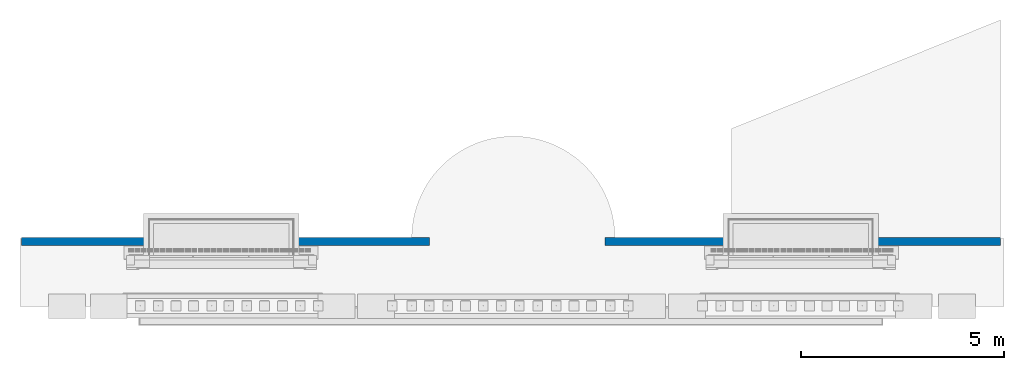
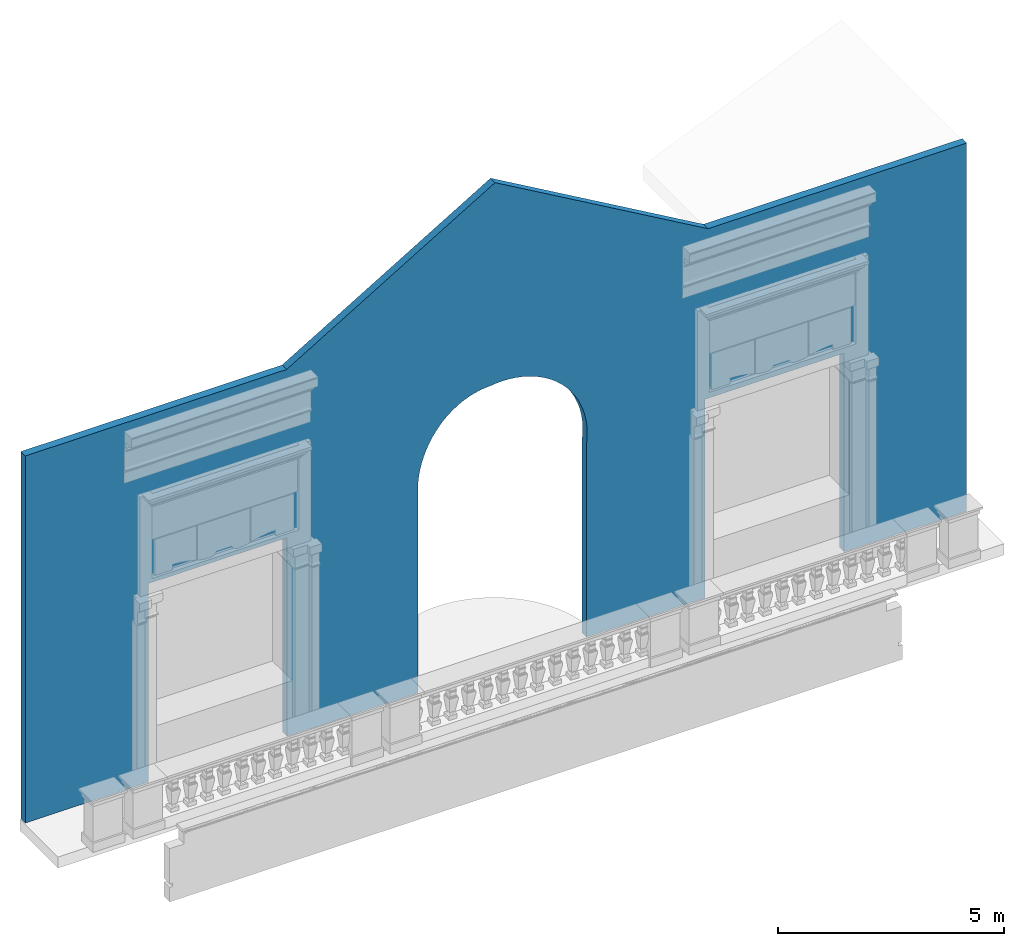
# One storey, part 2 of 14: 1 wall.
"""IFC2X3 building model written with IfcOpenShell, lengths in metres."""

from ifc_helpers import new_model, entity, si_unit, converted_unit, derived_unit, direction, frame, origin, place, context, subcontext, project, spatial, faceted_brep, material, material_list, layer, layer_set, type_object, element, save


model = new_model("IFC2X3")

# Units and contexts
model_context = context("Model", 3, precision=1e-05, world=origin(), true_north=direction((6.12303176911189e-17, 1.0)))
body_context = subcontext(model_context, "Body", "Model", "MODEL_VIEW")
ifc_project = project(units=[si_unit("LENGTHUNIT", "METRE"), si_unit("AREAUNIT", "SQUARE_METRE"), si_unit("VOLUMEUNIT", "CUBIC_METRE"), converted_unit("PLANEANGLEUNIT", "DEGREE", entity("IfcRatioMeasure", 0.0174532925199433), si_unit("PLANEANGLEUNIT", "RADIAN"), dimensions=[0, 0, 0, 0, 0, 0, 0]), si_unit("MASSUNIT", "GRAM", prefix="KILO"), derived_unit("MASSDENSITYUNIT", [(si_unit("MASSUNIT", "GRAM", prefix="KILO"), 1), (si_unit("LENGTHUNIT", "METRE"), -3)]), si_unit("TIMEUNIT", "SECOND"), si_unit("FREQUENCYUNIT", "HERTZ"), si_unit("THERMODYNAMICTEMPERATUREUNIT", "DEGREE_CELSIUS"), derived_unit("THERMALTRANSMITTANCEUNIT", [(si_unit("MASSUNIT", "GRAM", prefix="KILO"), 1), (si_unit("THERMODYNAMICTEMPERATUREUNIT", "KELVIN"), -1), (si_unit("TIMEUNIT", "SECOND"), -3)]), derived_unit("VOLUMETRICFLOWRATEUNIT", [(si_unit("LENGTHUNIT", "METRE"), 3), (si_unit("TIMEUNIT", "SECOND"), -1)]), si_unit("ELECTRICCURRENTUNIT", "AMPERE"), si_unit("ELECTRICVOLTAGEUNIT", "VOLT"), si_unit("POWERUNIT", "WATT"), si_unit("FORCEUNIT", "NEWTON", prefix="KILO"), si_unit("ILLUMINANCEUNIT", "LUX"), si_unit("LUMINOUSFLUXUNIT", "LUMEN"), si_unit("LUMINOUSINTENSITYUNIT", "CANDELA"), derived_unit("USERDEFINED", [(si_unit("MASSUNIT", "GRAM", prefix="KILO"), -1), (si_unit("LENGTHUNIT", "METRE"), -2), (si_unit("TIMEUNIT", "SECOND"), 3), (si_unit("LUMINOUSFLUXUNIT", "LUMEN"), 1)]), derived_unit("LINEARVELOCITYUNIT", [(si_unit("LENGTHUNIT", "METRE"), 1), (si_unit("TIMEUNIT", "SECOND"), -1)]), si_unit("PRESSUREUNIT", "PASCAL"), derived_unit("USERDEFINED", [(si_unit("LENGTHUNIT", "METRE"), -2), (si_unit("MASSUNIT", "GRAM", prefix="KILO"), 1), (si_unit("TIMEUNIT", "SECOND"), -2)])], contexts=[model_context])

# Site, building, storey
site_placement = place(None, origin())
site = spatial("IfcSite", under=ifc_project, at=site_placement, Name="Default", CompositionType="ELEMENT")
building_placement = place(site_placement, origin())
building = spatial("IfcBuilding", under=site, at=building_placement, CompositionType="ELEMENT")
storey_placement = place(building_placement, frame((0.0, 0.0, 13.366833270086)))
storey = spatial("IfcBuildingStorey", under=building, at=storey_placement, Name="Livello 2", CompositionType="ELEMENT", Elevation=13.366833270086)

# Wall
ifc_material = material(Name="Travertino")
ifc_material_list = material_list([ifc_material, ifc_material])
ifc_layer_1 = layer(ifc_material, 0.1)
ifc_layer_2 = layer(ifc_material, 0.1)
ifc_layer_set = layer_set([ifc_layer_1, ifc_layer_2], Name="Muro di base:Generico - 200 mm")
wall_type = type_object("IfcWallType", Name="Muro di base:Generico - 200 mm", PredefinedType="NOTDEFINED", material=ifc_layer_set)
wall_placement = place(storey_placement, frame((-12.0889166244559, 1.36337273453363, 0.0)))
element("IfcWall", 1, at=wall_placement, inside=storey, type_object=wall_type, material=ifc_material_list, Name="Muro di base:Generico - 200 mm", ObjectType="Muro di base:Generico - 200 mm:1740", context=body_context, shape_type="Brep", body=[
    faceted_brep([(3.1429955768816, -0.1, 5.37278470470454), (6.69556506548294, -0.1, 5.37278470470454), (6.69556506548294, -0.1, 0.0), (10.0354851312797, -0.1, 0.0), (10.0354851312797, -0.1, 5.37374708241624), (10.0354565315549, -0.1, 5.54226231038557), (10.0460613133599, -0.0999999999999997, 5.70989314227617), (10.067241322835, -0.0999999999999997, 5.87572033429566), (10.0988804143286, -0.1, 6.03883453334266), (10.140805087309, -0.0999999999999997, 6.19834126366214), (10.1927854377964, -0.1, 6.35336583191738), (10.2545364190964, -0.1, 6.50305812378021), (10.3257194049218, -0.1, 6.64659726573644), (10.4059440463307, -0.0999999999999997, 6.78319612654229), (10.4947704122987, -0.1, 6.91210563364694), (10.5917114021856, -0.1, 7.03261888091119), (10.6962354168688, -0.1, 7.14407500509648), (10.8077692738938, -0.0999999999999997, 7.24586280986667), (10.9257013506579, -0.1, 7.33742411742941), (11.0493849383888, -0.0999999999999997, 7.4182568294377), (11.1781417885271, -0.1, 7.48791768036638), (11.3112658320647, -0.0999999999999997, 7.5460246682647), (11.4480270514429, -0.1, 7.59225914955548), (11.5876754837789, -0.1, 7.62636758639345), (11.7294453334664, -0.0999999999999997, 7.64816293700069), (11.8725591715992, -0.1, 7.657525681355), (12.0377347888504, -0.1, 7.67612300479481), (12.2038487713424, -0.1, 7.68203822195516), (12.3699288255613, -0.1, 7.6752367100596), (12.5350028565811, -0.1, 7.65575827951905), (12.6981046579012, -0.1, 7.62371694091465), (12.8582795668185, -0.1, 7.57930023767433), (13.0145900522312, -0.1, 7.52276814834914), (13.1661212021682, -0.0999999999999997, 7.45445156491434), (13.3119860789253, -0.0999999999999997, 7.37475035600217), (13.4513309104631, -0.1, 7.28413102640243), (13.5833400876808, -0.0999999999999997, 7.18312398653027), (13.7072409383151, -0.1, 7.07232044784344), (13.8223082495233, -0.0999999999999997, 6.9523689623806), (13.9278685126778, -0.1, 6.8239716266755), (14.0233038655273, -0.1, 6.68787997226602), (14.10805570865, -0.1, 6.54489056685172), (14.1816279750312, -0.1, 6.39584035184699), (14.2435900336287, -0.0999999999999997, 6.24160174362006), (14.2935792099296, -0.1, 6.08307752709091), (14.3313029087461, -0.0999999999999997, 5.92119557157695), (14.3565403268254, -0.1, 5.75690339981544), (14.3691437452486, -0.1, 5.59116264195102), (14.3690393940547, -0.1, 5.42494340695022), (14.3562278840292, -0.1, 5.259218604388), (14.3562278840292, -0.1, 0.0), (17.3883298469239, -0.1, 0.0), (17.3883298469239, -0.1, 5.3727847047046), (20.9408993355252, -0.0999999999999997, 5.3727847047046), (20.9408993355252, -0.0999999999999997, 0.0), (24.0759405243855, -0.1, 0.0), (24.0759405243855, -0.1, 9.9589368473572), (17.4629279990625, -0.1, 9.9589368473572), (12.0128039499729, -0.1, 13.113508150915), (6.68119589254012, -0.1, 9.92758492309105), (0.0, -0.1, 9.92758492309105), (0.0, -0.1, 0.0), (3.1429955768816, -0.1, 0.0), (20.9408993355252, 0.1, 5.3727847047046), (17.3883298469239, 0.1, 5.3727847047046), (17.3883298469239, 0.1, 0.0), (14.3562278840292, 0.1, 0.0), (14.3562278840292, 0.1, 5.259218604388), (14.3690393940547, 0.1, 5.42494340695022), (14.3691437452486, 0.1, 5.59116264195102), (14.3565403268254, 0.1, 5.75690339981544), (14.3313029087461, 0.1, 5.92119557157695), (14.2935792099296, 0.1, 6.08307752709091), (14.2435900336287, 0.1, 6.24160174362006), (14.1816279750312, 0.1, 6.39584035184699), (14.10805570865, 0.1, 6.54489056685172), (14.0233038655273, 0.1, 6.68787997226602), (13.9278685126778, 0.1, 6.8239716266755), (13.8223082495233, 0.1, 6.9523689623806), (13.7072409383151, 0.1, 7.07232044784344), (13.5833400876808, 0.1, 7.18312398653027), (13.4513309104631, 0.1, 7.28413102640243), (13.3119860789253, 0.1, 7.37475035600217), (13.1661212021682, 0.1, 7.45445156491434), (13.0145900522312, 0.1, 7.52276814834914), (12.8582795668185, 0.1, 7.57930023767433), (12.6981046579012, 0.1, 7.62371694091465), (12.5350028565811, 0.1, 7.65575827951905), (12.3699288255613, 0.1, 7.6752367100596), (12.2038487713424, 0.1, 7.68203822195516), (12.0377347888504, 0.1, 7.67612300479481), (11.8725591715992, 0.1, 7.65752568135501), (11.7294453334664, 0.1, 7.64816293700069), (11.5876754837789, 0.1, 7.62636758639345), (11.4480270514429, 0.1, 7.59225914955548), (11.3112658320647, 0.1, 7.5460246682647), (11.1781417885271, 0.1, 7.48791768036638), (11.0493849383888, 0.1, 7.4182568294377), (10.9257013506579, 0.1, 7.33742411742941), (10.8077692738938, 0.1, 7.24586280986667), (10.6962354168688, 0.1, 7.14407500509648), (10.5917114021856, 0.1, 7.03261888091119), (10.4947704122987, 0.1, 6.91210563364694), (10.4059440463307, 0.1, 6.78319612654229), (10.3257194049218, 0.1, 6.64659726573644), (10.2545364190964, 0.1, 6.50305812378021), (10.1927854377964, 0.1, 6.35336583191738), (10.140805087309, 0.1, 6.19834126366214), (10.0988804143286, 0.1, 6.03883453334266), (10.067241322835, 0.1, 5.87572033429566), (10.0460613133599, 0.1, 5.70989314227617), (10.0354565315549, 0.1, 5.54226231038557), (10.0354851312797, 0.1, 5.37374708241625), (10.0354851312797, 0.1, 0.0), (6.69556506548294, 0.1, 0.0), (6.69556506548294, 0.1, 5.37278470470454), (3.1429955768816, 0.1, 5.37278470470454), (3.1429955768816, 0.1, 0.0), (0.0, 0.1, 0.0), (0.0, 0.1, 9.92758492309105), (6.68119589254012, 0.1, 9.92758492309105), (12.0128039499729, 0.1, 13.113508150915), (17.4629279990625, 0.1, 9.9589368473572), (24.0759405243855, 0.1, 9.9589368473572), (24.0759405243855, 0.1, 0.0), (20.9408993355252, 0.1, 0.0), (10.0354851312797, -0.000488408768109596, 5.37374708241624), (10.0553353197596, 2.60543513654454e-08, 5.79308931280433), (10.03711346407, -0.00538239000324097, 5.58431726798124), (11.1533366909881, 0.0, 7.47556885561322), (10.0920758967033, 1.32235063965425e-08, 6.00811414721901), (10.1655548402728, 0.0, 6.27646757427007), (10.4493113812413, 0.0, 6.84865726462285), (10.2889721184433, -1.00620636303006e-09, 6.57564687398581), (10.6430604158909, 0.0, 7.08951848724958), (10.7860808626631, 0.0, 7.22730640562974), (11.658343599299, 0.0, 7.638813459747), (11.8725591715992, -0.000488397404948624, 7.65752568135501), (10.9868658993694, 0.0, 7.37921066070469), (11.3792382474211, 0.0, 7.57064336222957)], [[[0, 1, 2, 3, 4, 5, 6, 7, 8, 9, 10, 11, 12, 13, 14, 15, 16, 17, 18, 19, 20, 21, 22, 23, 24, 25, 26, 27, 28, 29, 30, 31, 32, 33, 34, 35, 36, 37, 38, 39, 40, 41, 42, 43, 44, 45, 46, 47, 48, 49, 50, 51, 52, 53, 54, 55, 56, 57, 58, 59, 60, 61, 62]], [[63, 64, 65, 66, 67, 68, 69, 70, 71, 72, 73, 74, 75, 76, 77, 78, 79, 80, 81, 82, 83, 84, 85, 86, 87, 88, 89, 90, 91, 92, 93, 94, 95, 96, 97, 98, 99, 100, 101, 102, 103, 104, 105, 106, 107, 108, 109, 110, 111, 112, 113, 114, 115, 116, 117, 118, 119, 120, 121, 122, 123, 124, 125]], [[62, 61, 118, 117]], [[51, 50, 66, 65]], [[3, 2, 114, 113]], [[55, 54, 125, 124]], [[56, 55, 124, 123]], [[61, 60, 119, 118]], [[3, 113, 112, 126, 4]], [[127, 7, 6]], [[126, 128, 5]], [[21, 20, 129]], [[127, 6, 128]], [[7, 127, 130]], [[8, 7, 130]], [[127, 110, 109]], [[126, 111, 128]], [[10, 9, 131]], [[131, 9, 130]], [[11, 10, 131]], [[108, 107, 130]], [[132, 14, 13]], [[12, 11, 133]], [[15, 14, 132]], [[11, 131, 133]], [[103, 132, 104]], [[133, 132, 13]], [[106, 105, 133]], [[126, 112, 111]], [[126, 5, 4]], [[96, 95, 129]], [[102, 101, 134]], [[99, 98, 135]], [[130, 127, 109]], [[110, 128, 111]], [[131, 107, 106]], [[133, 131, 106]], [[9, 8, 130]], [[136, 92, 137]], [[130, 107, 131]], [[105, 104, 133]], [[96, 129, 97]], [[18, 17, 135]], [[133, 104, 132]], [[5, 128, 6]], [[102, 132, 103]], [[134, 15, 132]], [[134, 16, 15]], [[133, 13, 12]], [[135, 17, 16]], [[129, 20, 19]], [[138, 19, 18]], [[18, 135, 138]], [[23, 22, 139, 136]], [[135, 16, 134]], [[91, 137, 92]], [[25, 24, 137]], [[24, 136, 137]], [[139, 22, 21]], [[21, 129, 139]], [[108, 130, 109]], [[110, 127, 128]], [[24, 23, 136]], [[99, 135, 100]], [[129, 19, 138]], [[101, 100, 134]], [[100, 135, 134]], [[135, 98, 138]], [[97, 138, 98]], [[97, 129, 138]], [[139, 129, 95]], [[95, 94, 139]], [[94, 93, 136, 139]], [[93, 92, 136]], [[134, 132, 102]], [[28, 88, 87, 29]], [[29, 87, 86, 30]], [[27, 26, 90, 89]], [[27, 89, 88, 28]], [[31, 30, 86, 85]], [[35, 34, 82, 81]], [[36, 35, 81, 80]], [[33, 32, 84, 83]], [[34, 33, 83, 82]], [[31, 85, 84, 32]], [[37, 36, 80, 79]], [[26, 25, 137, 91, 90]], [[40, 76, 75, 41]], [[41, 75, 74, 42]], [[39, 38, 78, 77]], [[39, 77, 76, 40]], [[43, 42, 74, 73]], [[47, 46, 70, 69]], [[48, 47, 69, 68]], [[45, 44, 72, 71]], [[46, 45, 71, 70]], [[43, 73, 72, 44]], [[49, 48, 68, 67]], [[79, 78, 38, 37]], [[50, 49, 67, 66]], [[0, 62, 117, 116]], [[1, 0, 116, 115]], [[53, 52, 64, 63]], [[2, 1, 115, 114]], [[52, 51, 65, 64]], [[54, 53, 63, 125]], [[57, 56, 123, 122]], [[58, 57, 122, 121]], [[59, 58, 121, 120]], [[60, 59, 120, 119]]]),
])

save(model, "model.ifc")
